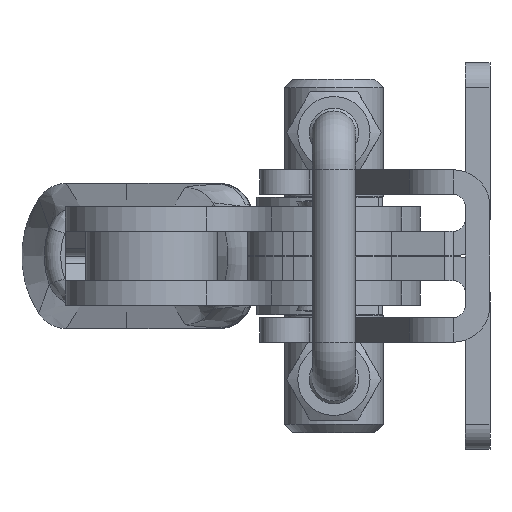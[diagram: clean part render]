
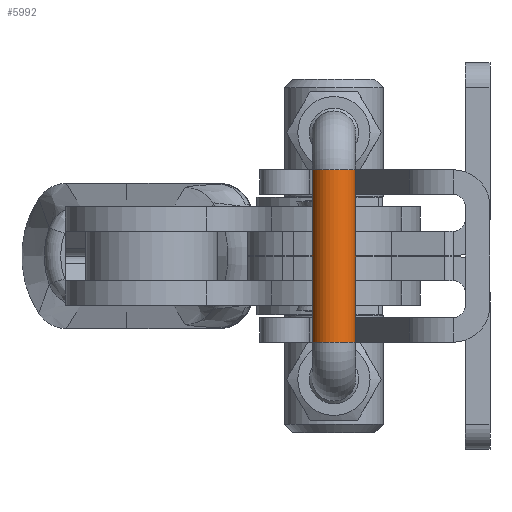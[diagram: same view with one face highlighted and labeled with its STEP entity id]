
A CAD part, left-side view. The second image highlights one B-rep face of the part: STEP entity #5992.
In plain terms, the highlighted cylindrical face has radius 2.65 mm (diameter 5.3 mm), a full revolution.
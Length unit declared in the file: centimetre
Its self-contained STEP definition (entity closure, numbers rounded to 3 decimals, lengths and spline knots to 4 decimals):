
#1229=FACE_BOUND($,#2046,.T.);
#1553=FACE_OUTER_BOUND($,#2045,.T.);
#2045=EDGE_LOOP($,(#5359));
#2046=EDGE_LOOP($,(#5360));
#2393=CIRCLE($,#6687,0.265);
#2399=CIRCLE($,#6699,0.265);
#2953=VERTEX_POINT($,#11230);
#2959=VERTEX_POINT($,#11248);
#3762=EDGE_CURVE($,#2953,#2953,#2393,.T.);
#3768=EDGE_CURVE($,#2959,#2959,#2399,.T.);
#5359=ORIENTED_EDGE($,*,*,#3762,.T.);
#5360=ORIENTED_EDGE($,*,*,#3768,.F.);
#5630=CYLINDRICAL_SURFACE($,#6701,0.265);
#5992=ADVANCED_FACE($,(#1553,#1229),#5630,.T.);
#6687=AXIS2_PLACEMENT_3D($,#11231,#8337,#8338);
#6699=AXIS2_PLACEMENT_3D($,#11249,#8361,#8362);
#6701=AXIS2_PLACEMENT_3D($,#11252,#8365,#8366);
#8337=DIRECTION('center_axis',(0.,0.,
-1.));
#8338=DIRECTION('ref_axis',(0.,1.,0.));
#8361=DIRECTION('center_axis',(0.,0.,
-1.));
#8362=DIRECTION('ref_axis',(0.,1.,0.));
#8365=DIRECTION('center_axis',(0.,0.,
-1.));
#8366=DIRECTION('ref_axis',(0.,1.,0.));
#11230=CARTESIAN_POINT('',(-5.45,-0.385,1.05));
#11231=CARTESIAN_POINT('Origin',(-5.45,-0.12,1.05));
#11248=CARTESIAN_POINT('',(-5.45,-0.385,-1.05));
#11249=CARTESIAN_POINT('Origin',(-5.45,-0.12,-1.05));
#11252=CARTESIAN_POINT('Origin',(-5.45,-0.12,-2.6034));
